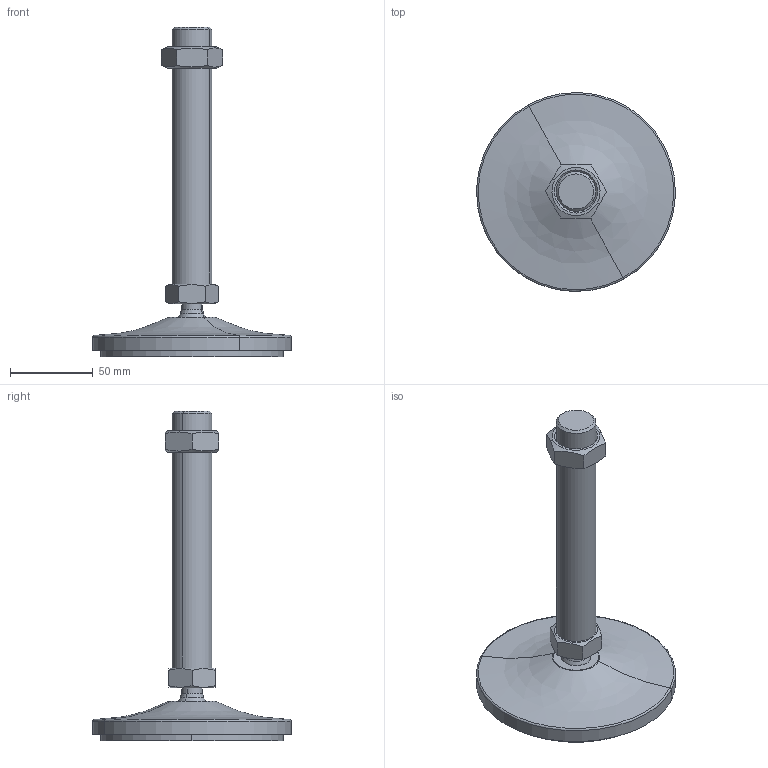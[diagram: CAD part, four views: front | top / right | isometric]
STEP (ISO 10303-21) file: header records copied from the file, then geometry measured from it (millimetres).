
FILE_DESCRIPTION(('CATIA V5 STEP Exchange'),'2;1');
FILE_NAME('C:\Users\ALI OZGUN\Desktop\alhan\saplama2\560122421AV.stp','2017-09-21T10:32:22+00:00',('none'),('none'),'CATIA Version 5 Release 21 GA (IN-10)','CATIA V5 STEP AP203','none');
FILE_SCHEMA(('CONFIG_CONTROL_DESIGN'));
Length unit declared in the file: millimetre
Products named in the file (1): 560122421AV
Bounding box: 119.97 x 119.97 x 199 mm (x, y, z)
Volume: 256693.2 mm3; surface area: 68261.7 mm2
Topology: 4 solids, 4 shells, 64 faces, 142 edges, 87 vertices
Faces by surface type: plane 22, cylinder 16, cone 16, torus 4, revolution 4, sphere 2
Entity records: 1936 total; most frequent: CARTESIAN_POINT 628, ORIENTED_EDGE 280, DIRECTION 197, EDGE_CURVE 140, AXIS2_PLACEMENT_3D 106, VERTEX_POINT 87, EDGE_LOOP 71, ADVANCED_FACE 64
